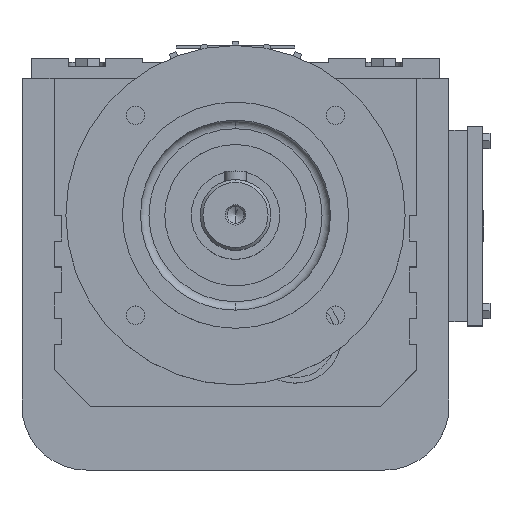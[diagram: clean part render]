
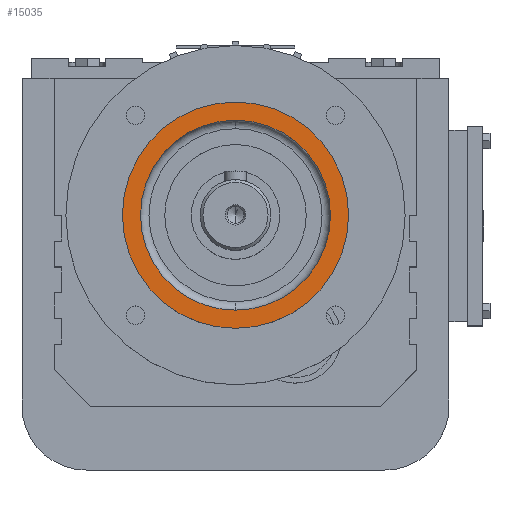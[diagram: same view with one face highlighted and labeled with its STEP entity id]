
A CAD part, top view. The second image highlights one B-rep face of the part: STEP entity #15035.
In plain terms, the highlighted planar face has unit normal (0, 0, 1).
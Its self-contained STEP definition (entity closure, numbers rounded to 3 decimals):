
#11229 = CYLINDRICAL_SURFACE('',#11230,40.);
#11230 = AXIS2_PLACEMENT_3D('',#11231,#11232,#11233);
#11231 = CARTESIAN_POINT('',(0.,0.,199.));
#11232 = DIRECTION('',(0.,0.,1.));
#11233 = DIRECTION('',(0.,-1.,0.));
#11259 = CYLINDRICAL_SURFACE('',#11260,40.);
#11260 = AXIS2_PLACEMENT_3D('',#11261,#11262,#11263);
#11261 = CARTESIAN_POINT('',(0.,0.,199.));
#11262 = DIRECTION('',(0.,0.,1.));
#11263 = DIRECTION('',(0.,-1.,0.));
#13904 = VERTEX_POINT('',#13905);
#13905 = CARTESIAN_POINT('',(0.,40.,152.));
#13926 = VERTEX_POINT('',#13927);
#13927 = CARTESIAN_POINT('',(0.,-40.,152.));
#13946 = EDGE_CURVE('',#13904,#13926,#13947,.T.);
#13947 = SURFACE_CURVE('',#13948,(#13953,#13959),.PCURVE_S1.);
#13948 = CIRCLE('',#13949,40.);
#13949 = AXIS2_PLACEMENT_3D('',#13950,#13951,#13952);
#13950 = CARTESIAN_POINT('',(0.,0.,152.));
#13951 = DIRECTION('',(0.,0.,1.));
#13952 = DIRECTION('',(0.,-1.,0.));
#13953 = PCURVE('',#11259,#13954);
#13954 = DEFINITIONAL_REPRESENTATION('',(#13955),#13958);
#13955 = B_SPLINE_CURVE_WITH_KNOTS('',1,(#13956,#13957),.UNSPECIFIED.,
  .F.,.F.,(2,2),(3.142,6.283),.PIECEWISE_BEZIER_KNOTS.);
#13956 = CARTESIAN_POINT('',(3.142,-47.));
#13957 = CARTESIAN_POINT('',(6.283,-47.));
#13958 = ( GEOMETRIC_REPRESENTATION_CONTEXT(2) 
PARAMETRIC_REPRESENTATION_CONTEXT() REPRESENTATION_CONTEXT('2D SPACE',''
  ) );
#13959 = PCURVE('',#13960,#13965);
#13960 = PLANE('',#13961);
#13961 = AXIS2_PLACEMENT_3D('',#13962,#13963,#13964);
#13962 = CARTESIAN_POINT('',(0.,40.,152.));
#13963 = DIRECTION('',(0.,0.,-1.));
#13964 = DIRECTION('',(0.,1.,0.));
#13965 = DEFINITIONAL_REPRESENTATION('',(#13966),#13974);
#13966 = ( BOUNDED_CURVE() B_SPLINE_CURVE(2,(#13967,#13968,#13969,#13970
    ,#13971,#13972,#13973),.UNSPECIFIED.,.T.,.F.) 
B_SPLINE_CURVE_WITH_KNOTS((1,2,2,2,2,1),(-2.094,0.,
    2.094,4.189,6.283,8.378),
.UNSPECIFIED.) CURVE() GEOMETRIC_REPRESENTATION_ITEM() 
RATIONAL_B_SPLINE_CURVE((1.,0.5,1.,0.5,1.,0.5,1.)) REPRESENTATION_ITEM(
  '') );
#13967 = CARTESIAN_POINT('',(-80.,0.));
#13968 = CARTESIAN_POINT('',(-80.,69.282));
#13969 = CARTESIAN_POINT('',(-20.,34.641));
#13970 = CARTESIAN_POINT('',(40.,0.));
#13971 = CARTESIAN_POINT('',(-20.,-34.641));
#13972 = CARTESIAN_POINT('',(-80.,-69.282));
#13973 = CARTESIAN_POINT('',(-80.,0.));
#13974 = ( GEOMETRIC_REPRESENTATION_CONTEXT(2) 
PARAMETRIC_REPRESENTATION_CONTEXT() REPRESENTATION_CONTEXT('2D SPACE',''
  ) );
#13981 = EDGE_CURVE('',#13926,#13904,#13982,.T.);
#13982 = SURFACE_CURVE('',#13983,(#13988,#13994),.PCURVE_S1.);
#13983 = CIRCLE('',#13984,40.);
#13984 = AXIS2_PLACEMENT_3D('',#13985,#13986,#13987);
#13985 = CARTESIAN_POINT('',(0.,0.,152.));
#13986 = DIRECTION('',(0.,0.,1.));
#13987 = DIRECTION('',(0.,-1.,0.));
#13988 = PCURVE('',#11229,#13989);
#13989 = DEFINITIONAL_REPRESENTATION('',(#13990),#13993);
#13990 = B_SPLINE_CURVE_WITH_KNOTS('',1,(#13991,#13992),.UNSPECIFIED.,
  .F.,.F.,(2,2),(0.,3.142),.PIECEWISE_BEZIER_KNOTS.);
#13991 = CARTESIAN_POINT('',(0.,-47.));
#13992 = CARTESIAN_POINT('',(3.142,-47.));
#13993 = ( GEOMETRIC_REPRESENTATION_CONTEXT(2) 
PARAMETRIC_REPRESENTATION_CONTEXT() REPRESENTATION_CONTEXT('2D SPACE',''
  ) );
#13994 = PCURVE('',#13960,#13995);
#13995 = DEFINITIONAL_REPRESENTATION('',(#13996),#14004);
#13996 = ( BOUNDED_CURVE() B_SPLINE_CURVE(2,(#13997,#13998,#13999,#14000
    ,#14001,#14002,#14003),.UNSPECIFIED.,.T.,.F.) 
B_SPLINE_CURVE_WITH_KNOTS((1,2,2,2,2,1),(-2.094,0.,
    2.094,4.189,6.283,8.378),
.UNSPECIFIED.) CURVE() GEOMETRIC_REPRESENTATION_ITEM() 
RATIONAL_B_SPLINE_CURVE((1.,0.5,1.,0.5,1.,0.5,1.)) REPRESENTATION_ITEM(
  '') );
#13997 = CARTESIAN_POINT('',(-80.,0.));
#13998 = CARTESIAN_POINT('',(-80.,69.282));
#13999 = CARTESIAN_POINT('',(-20.,34.641));
#14000 = CARTESIAN_POINT('',(40.,0.));
#14001 = CARTESIAN_POINT('',(-20.,-34.641));
#14002 = CARTESIAN_POINT('',(-80.,-69.282));
#14003 = CARTESIAN_POINT('',(-80.,0.));
#14004 = ( GEOMETRIC_REPRESENTATION_CONTEXT(2) 
PARAMETRIC_REPRESENTATION_CONTEXT() REPRESENTATION_CONTEXT('2D SPACE',''
  ) );
#15035 = ADVANCED_FACE('',(#15036,#15102),#13960,.F.);
#15036 = FACE_BOUND('',#15037,.T.);
#15037 = EDGE_LOOP('',(#15038,#15072));
#15038 = ORIENTED_EDGE('',*,*,#15039,.F.);
#15039 = EDGE_CURVE('',#15040,#15042,#15044,.T.);
#15040 = VERTEX_POINT('',#15041);
#15041 = CARTESIAN_POINT('',(0.,-33.6,152.));
#15042 = VERTEX_POINT('',#15043);
#15043 = CARTESIAN_POINT('',(0.,33.6,152.));
#15044 = SURFACE_CURVE('',#15045,(#15050,#15061),.PCURVE_S1.);
#15045 = CIRCLE('',#15046,33.6);
#15046 = AXIS2_PLACEMENT_3D('',#15047,#15048,#15049);
#15047 = CARTESIAN_POINT('',(0.,0.,152.));
#15048 = DIRECTION('',(0.,0.,1.));
#15049 = DIRECTION('',(0.,-1.,0.));
#15050 = PCURVE('',#13960,#15051);
#15051 = DEFINITIONAL_REPRESENTATION('',(#15052),#15060);
#15052 = ( BOUNDED_CURVE() B_SPLINE_CURVE(2,(#15053,#15054,#15055,#15056
    ,#15057,#15058,#15059),.UNSPECIFIED.,.T.,.F.) 
B_SPLINE_CURVE_WITH_KNOTS((1,2,2,2,2,1),(-2.094,0.,
    2.094,4.189,6.283,8.378),
.UNSPECIFIED.) CURVE() GEOMETRIC_REPRESENTATION_ITEM() 
RATIONAL_B_SPLINE_CURVE((1.,0.5,1.,0.5,1.,0.5,1.)) REPRESENTATION_ITEM(
  '') );
#15053 = CARTESIAN_POINT('',(-73.6,0.));
#15054 = CARTESIAN_POINT('',(-73.6,58.197));
#15055 = CARTESIAN_POINT('',(-23.2,29.098));
#15056 = CARTESIAN_POINT('',(27.2,0.));
#15057 = CARTESIAN_POINT('',(-23.2,-29.098));
#15058 = CARTESIAN_POINT('',(-73.6,-58.197));
#15059 = CARTESIAN_POINT('',(-73.6,0.));
#15060 = ( GEOMETRIC_REPRESENTATION_CONTEXT(2) 
PARAMETRIC_REPRESENTATION_CONTEXT() REPRESENTATION_CONTEXT('2D SPACE',''
  ) );
#15061 = PCURVE('',#15062,#15067);
#15062 = CYLINDRICAL_SURFACE('',#15063,33.6);
#15063 = AXIS2_PLACEMENT_3D('',#15064,#15065,#15066);
#15064 = CARTESIAN_POINT('',(0.,0.,199.));
#15065 = DIRECTION('',(0.,0.,1.));
#15066 = DIRECTION('',(0.,-1.,0.));
#15067 = DEFINITIONAL_REPRESENTATION('',(#15068),#15071);
#15068 = B_SPLINE_CURVE_WITH_KNOTS('',1,(#15069,#15070),.UNSPECIFIED.,
  .F.,.F.,(2,2),(0.,3.142),.PIECEWISE_BEZIER_KNOTS.);
#15069 = CARTESIAN_POINT('',(0.,-47.));
#15070 = CARTESIAN_POINT('',(3.142,-47.));
#15071 = ( GEOMETRIC_REPRESENTATION_CONTEXT(2) 
PARAMETRIC_REPRESENTATION_CONTEXT() REPRESENTATION_CONTEXT('2D SPACE',''
  ) );
#15072 = ORIENTED_EDGE('',*,*,#15073,.F.);
#15073 = EDGE_CURVE('',#15042,#15040,#15074,.T.);
#15074 = SURFACE_CURVE('',#15075,(#15080,#15091),.PCURVE_S1.);
#15075 = CIRCLE('',#15076,33.6);
#15076 = AXIS2_PLACEMENT_3D('',#15077,#15078,#15079);
#15077 = CARTESIAN_POINT('',(0.,0.,152.));
#15078 = DIRECTION('',(0.,0.,1.));
#15079 = DIRECTION('',(0.,-1.,0.));
#15080 = PCURVE('',#13960,#15081);
#15081 = DEFINITIONAL_REPRESENTATION('',(#15082),#15090);
#15082 = ( BOUNDED_CURVE() B_SPLINE_CURVE(2,(#15083,#15084,#15085,#15086
    ,#15087,#15088,#15089),.UNSPECIFIED.,.T.,.F.) 
B_SPLINE_CURVE_WITH_KNOTS((1,2,2,2,2,1),(-2.094,0.,
    2.094,4.189,6.283,8.378),
.UNSPECIFIED.) CURVE() GEOMETRIC_REPRESENTATION_ITEM() 
RATIONAL_B_SPLINE_CURVE((1.,0.5,1.,0.5,1.,0.5,1.)) REPRESENTATION_ITEM(
  '') );
#15083 = CARTESIAN_POINT('',(-73.6,0.));
#15084 = CARTESIAN_POINT('',(-73.6,58.197));
#15085 = CARTESIAN_POINT('',(-23.2,29.098));
#15086 = CARTESIAN_POINT('',(27.2,0.));
#15087 = CARTESIAN_POINT('',(-23.2,-29.098));
#15088 = CARTESIAN_POINT('',(-73.6,-58.197));
#15089 = CARTESIAN_POINT('',(-73.6,0.));
#15090 = ( GEOMETRIC_REPRESENTATION_CONTEXT(2) 
PARAMETRIC_REPRESENTATION_CONTEXT() REPRESENTATION_CONTEXT('2D SPACE',''
  ) );
#15091 = PCURVE('',#15092,#15097);
#15092 = CYLINDRICAL_SURFACE('',#15093,33.6);
#15093 = AXIS2_PLACEMENT_3D('',#15094,#15095,#15096);
#15094 = CARTESIAN_POINT('',(0.,0.,199.));
#15095 = DIRECTION('',(0.,0.,1.));
#15096 = DIRECTION('',(0.,-1.,0.));
#15097 = DEFINITIONAL_REPRESENTATION('',(#15098),#15101);
#15098 = B_SPLINE_CURVE_WITH_KNOTS('',1,(#15099,#15100),.UNSPECIFIED.,
  .F.,.F.,(2,2),(3.142,6.283),.PIECEWISE_BEZIER_KNOTS.);
#15099 = CARTESIAN_POINT('',(3.142,-47.));
#15100 = CARTESIAN_POINT('',(6.283,-47.));
#15101 = ( GEOMETRIC_REPRESENTATION_CONTEXT(2) 
PARAMETRIC_REPRESENTATION_CONTEXT() REPRESENTATION_CONTEXT('2D SPACE',''
  ) );
#15102 = FACE_BOUND('',#15103,.T.);
#15103 = EDGE_LOOP('',(#15104,#15105));
#15104 = ORIENTED_EDGE('',*,*,#13981,.T.);
#15105 = ORIENTED_EDGE('',*,*,#13946,.T.);
